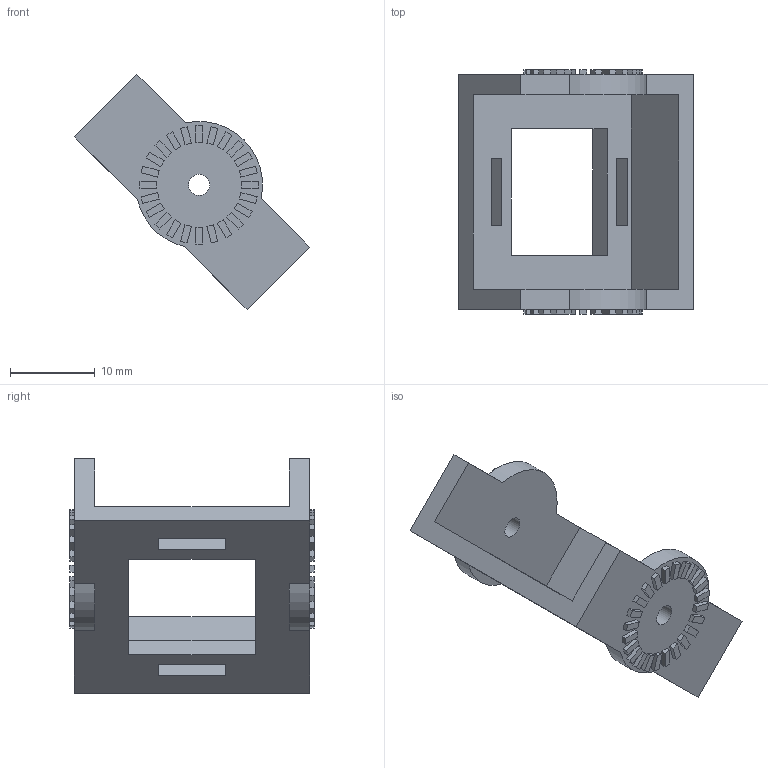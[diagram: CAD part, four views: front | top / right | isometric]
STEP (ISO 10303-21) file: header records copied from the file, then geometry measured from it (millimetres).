
FILE_DESCRIPTION(('Open CASCADE Model'),'2;1');
FILE_NAME('Open CASCADE Shape Model','2026-10-11T00:34:09',('Author'),( 'Open CASCADE'),'Open CASCADE STEP processor 7.8','Open CASCADE 7.8' ,'Unknown');
FILE_SCHEMA(('AUTOMOTIVE_DESIGN { 1 0 10303 214 1 1 1 1 }'));
Length unit declared in the file: millimetre
Products named in the file (1): Open CASCADE STEP translator 7.8 8
Bounding box: 27.72 x 28.9 x 27.72 mm (x, y, z)
Volume: 3021 mm3; surface area: 3234.4 mm2
Topology: 1 solids, 1 shells, 272 faces, 666 edges, 444 vertices
Faces by surface type: plane 266, cylinder 6
Full cylindrical faces by diameter (mm): 2.5 x2
Entity records: 16530 total; most frequent: CARTESIAN_POINT 2715, DIRECTION 2556, LINE 1974, VECTOR 1974, ORIENTED_EDGE 1332, PCURVE 1332, DEFINITIONAL_REPRESENTATION 1332, EDGE_CURVE 666
